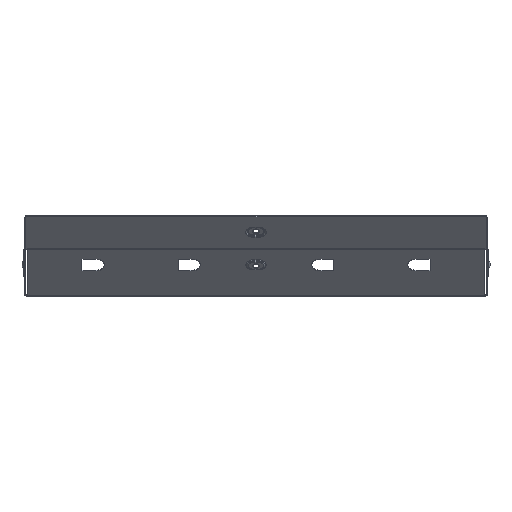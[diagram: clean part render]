
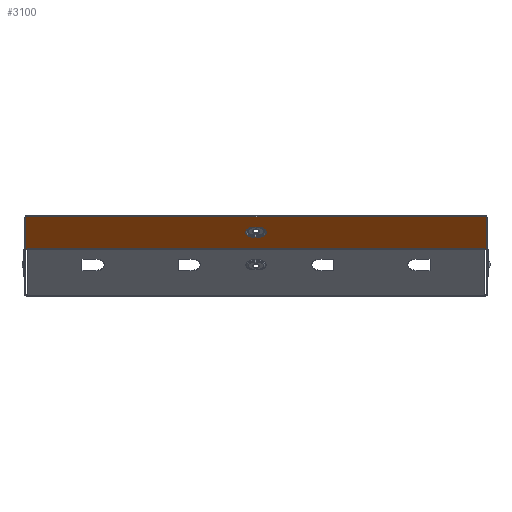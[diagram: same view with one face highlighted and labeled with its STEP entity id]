
A CAD part, top view. The second image highlights one B-rep face of the part: STEP entity #3100.
In plain terms, the highlighted planar face has unit normal (0, -0.707, 0.707).
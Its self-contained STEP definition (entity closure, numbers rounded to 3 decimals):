
#903 = PLANE ( 'NONE',  #13537 ) ;
#921 = EDGE_LOOP ( 'NONE', ( #4556, #10871, #9594, #9072 ) ) ;
#929 = ORIENTED_EDGE ( 'NONE', *, *, #4063, .F. ) ;
#1244 = CARTESIAN_POINT ( 'NONE',  ( -3.5, 23.192, 86.823 ) ) ;
#1371 = LINE ( 'NONE', #7105, #6637 ) ;
#1543 = VECTOR ( 'NONE', #12839, 1000. ) ;
#1893 = VECTOR ( 'NONE', #9193, 1000. ) ;
#1925 = VECTOR ( 'NONE', #1940, 1000. ) ;
#1940 = DIRECTION ( 'NONE',  ( -1., 0., 0. ) ) ;
#2259 = CARTESIAN_POINT ( 'NONE',  ( 3.5, 12.446, 76.078 ) ) ;
#2486 = ORIENTED_EDGE ( 'NONE', *, *, #9981, .T. ) ;
#2543 = VERTEX_POINT ( 'NONE', #14027 ) ;
#2578 = DIRECTION ( 'NONE',  ( 0., -0.707, -0.707 ) ) ;
#3067 = DIRECTION ( 'NONE',  ( 0., 0.707, -0.707 ) ) ;
#3100 = ADVANCED_FACE ( 'NONE', ( #11258, #4650 ), #903, .F. ) ;
#3173 = VERTEX_POINT ( 'NONE', #7172 ) ;
#3204 = VECTOR ( 'NONE', #14284, 1000. ) ;
#3653 = CARTESIAN_POINT ( 'NONE',  ( 3.5, 23.192, 86.823 ) ) ;
#3785 = CARTESIAN_POINT ( 'NONE',  ( -3.5, 12.446, 76.078 ) ) ;
#4023 = DIRECTION ( 'NONE',  ( 0., -0.707, -0.707 ) ) ;
#4063 = EDGE_CURVE ( 'NONE', #6164, #11718, #11918, .T. ) ;
#4342 = LINE ( 'NONE', #9451, #1543 ) ;
#4556 = ORIENTED_EDGE ( 'NONE', *, *, #8873, .F. ) ;
#4650 = FACE_OUTER_BOUND ( 'NONE', #5238, .T. ) ;
#5238 = EDGE_LOOP ( 'NONE', ( #6208, #6302, #929, #2486 ) ) ;
#5691 = VERTEX_POINT ( 'NONE', #2259 ) ;
#5966 = AXIS2_PLACEMENT_3D ( 'NONE', #14081, #7374, #4023 ) ;
#6164 = VERTEX_POINT ( 'NONE', #9463 ) ;
#6202 = DIRECTION ( 'NONE',  ( 0., -0.707, 0.707 ) ) ;
#6208 = ORIENTED_EDGE ( 'NONE', *, *, #6564, .T. ) ;
#6302 = ORIENTED_EDGE ( 'NONE', *, *, #8444, .F. ) ;
#6564 = EDGE_CURVE ( 'NONE', #3173, #2543, #1371, .T. ) ;
#6637 = VECTOR ( 'NONE', #8206, 1000. ) ;
#7105 = CARTESIAN_POINT ( 'NONE',  ( -249., -0.566, 63.066 ) ) ;
#7172 = CARTESIAN_POINT ( 'NONE',  ( -249., 34.79, 98.421 ) ) ;
#7374 = DIRECTION ( 'NONE',  ( 0., -0.707, 0.707 ) ) ;
#8206 = DIRECTION ( 'NONE',  ( 0., -0.707, -0.707 ) ) ;
#8369 = VERTEX_POINT ( 'NONE', #3653 ) ;
#8444 = EDGE_CURVE ( 'NONE', #11718, #2543, #10452, .T. ) ;
#8568 = AXIS2_PLACEMENT_3D ( 'NONE', #14117, #6202, #2578 ) ;
#8734 = DIRECTION ( 'NONE',  ( 0., -0.707, -0.707 ) ) ;
#8873 = EDGE_CURVE ( 'NONE', #5691, #8369, #10612, .T. ) ;
#8925 = CARTESIAN_POINT ( 'NONE',  ( 249., -0.273, 63.359 ) ) ;
#9010 = EDGE_CURVE ( 'NONE', #8369, #13124, #4342, .T. ) ;
#9072 = ORIENTED_EDGE ( 'NONE', *, *, #9010, .F. ) ;
#9103 = CARTESIAN_POINT ( 'NONE',  ( 249., 34.79, 98.421 ) ) ;
#9107 = LINE ( 'NONE', #12013, #3204 ) ;
#9193 = DIRECTION ( 'NONE',  ( -1., 0., 0. ) ) ;
#9451 = CARTESIAN_POINT ( 'NONE',  ( -3.5, 23.192, 86.823 ) ) ;
#9463 = CARTESIAN_POINT ( 'NONE',  ( 249., 34.79, 98.421 ) ) ;
#9594 = ORIENTED_EDGE ( 'NONE', *, *, #9638, .F. ) ;
#9638 = EDGE_CURVE ( 'NONE', #13124, #13178, #12205, .T. ) ;
#9807 = DIRECTION ( 'NONE',  ( 0., 0.707, 0.707 ) ) ;
#9981 = EDGE_CURVE ( 'NONE', #6164, #3173, #13946, .T. ) ;
#10452 = LINE ( 'NONE', #10748, #1925 ) ;
#10612 = CIRCLE ( 'NONE', #5966, 7.598 ) ;
#10748 = CARTESIAN_POINT ( 'NONE',  ( 249., -0.273, 63.359 ) ) ;
#10871 = ORIENTED_EDGE ( 'NONE', *, *, #14477, .F. ) ;
#11258 = FACE_BOUND ( 'NONE', #921, .T. ) ;
#11522 = CARTESIAN_POINT ( 'NONE',  ( 249., -0.566, 63.066 ) ) ;
#11718 = VERTEX_POINT ( 'NONE', #8925 ) ;
#11910 = CARTESIAN_POINT ( 'NONE',  ( 249., -0.566, 63.066 ) ) ;
#11918 = LINE ( 'NONE', #11522, #13687 ) ;
#12013 = CARTESIAN_POINT ( 'NONE',  ( -3.5, 12.446, 76.078 ) ) ;
#12205 = CIRCLE ( 'NONE', #8568, 7.598 ) ;
#12839 = DIRECTION ( 'NONE',  ( -1., 0., 0. ) ) ;
#13124 = VERTEX_POINT ( 'NONE', #1244 ) ;
#13178 = VERTEX_POINT ( 'NONE', #3785 ) ;
#13537 = AXIS2_PLACEMENT_3D ( 'NONE', #11910, #3067, #9807 ) ;
#13687 = VECTOR ( 'NONE', #8734, 1000. ) ;
#13946 = LINE ( 'NONE', #9103, #1893 ) ;
#14027 = CARTESIAN_POINT ( 'NONE',  ( -249., -0.273, 63.359 ) ) ;
#14081 = CARTESIAN_POINT ( 'NONE',  ( 3.5, 17.819, 81.45 ) ) ;
#14117 = CARTESIAN_POINT ( 'NONE',  ( -3.5, 17.819, 81.45 ) ) ;
#14284 = DIRECTION ( 'NONE',  ( 1., 0., 0. ) ) ;
#14477 = EDGE_CURVE ( 'NONE', #13178, #5691, #9107, .T. ) ;
